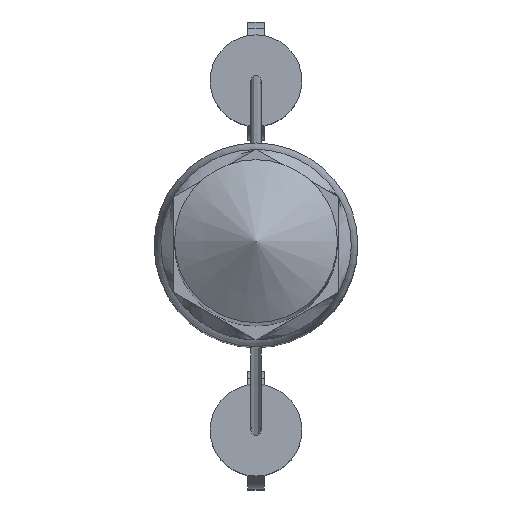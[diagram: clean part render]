
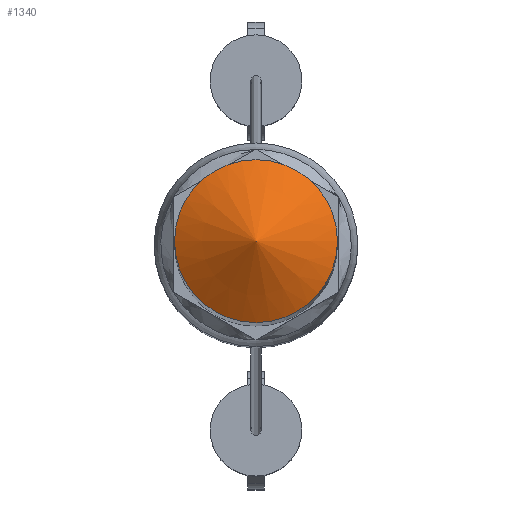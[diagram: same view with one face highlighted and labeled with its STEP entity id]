
A CAD part, top view. The second image highlights one B-rep face of the part: STEP entity #1340.
In plain terms, the highlighted conical face has half-angle 60 degrees and reference radius 4 mm.
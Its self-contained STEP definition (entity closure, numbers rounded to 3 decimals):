
#491 = CARTESIAN_POINT ( 'NONE',  ( 0., 0., 97.691 ) ) ;
#681 = CONICAL_SURFACE ( 'NONE', #2670, 4., 1.047 ) ;
#890 = CIRCLE ( 'NONE', #2199, 4. ) ;
#1072 = ORIENTED_EDGE ( 'NONE', *, *, #2568, .T. ) ;
#1340 = ADVANCED_FACE ( 'NONE', ( #1678 ), #681, .T. ) ;
#1543 = DIRECTION ( 'NONE',  ( 0., 0., 1. ) ) ;
#1553 = EDGE_LOOP ( 'NONE', ( #1072 ) ) ;
#1612 = DIRECTION ( 'NONE',  ( -1., 0., 0. ) ) ;
#1678 = FACE_OUTER_BOUND ( 'NONE', #1553, .T. ) ;
#1690 = VERTEX_POINT ( 'NONE', #1926 ) ;
#1916 = DIRECTION ( 'NONE',  ( 1., 0., 0. ) ) ;
#1926 = CARTESIAN_POINT ( 'NONE',  ( 4., 0., 97.691 ) ) ;
#2199 = AXIS2_PLACEMENT_3D ( 'NONE', #491, #1543, #1916 ) ;
#2537 = DIRECTION ( 'NONE',  ( 0., 0., -1. ) ) ;
#2568 = EDGE_CURVE ( 'NONE', #1690, #1690, #890, .T. ) ;
#2661 = CARTESIAN_POINT ( 'NONE',  ( 0., 0., 97.691 ) ) ;
#2670 = AXIS2_PLACEMENT_3D ( 'NONE', #2661, #2537, #1612 ) ;
